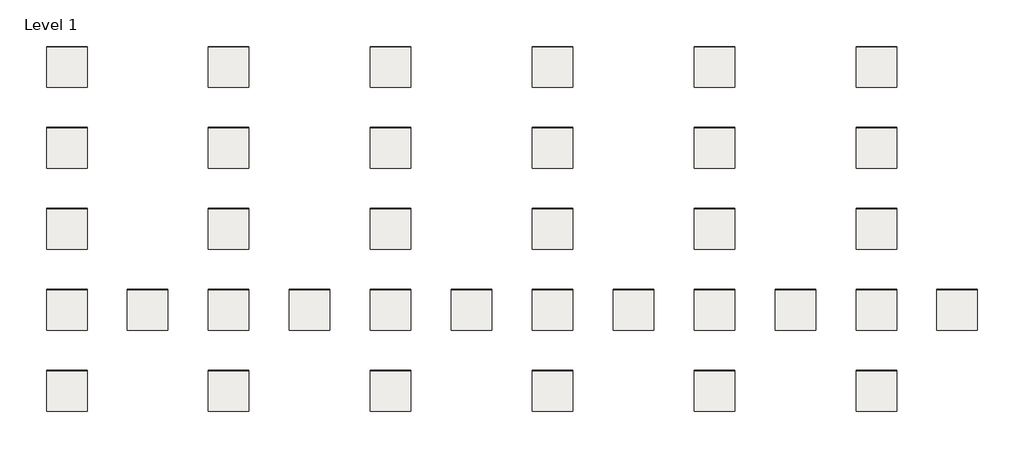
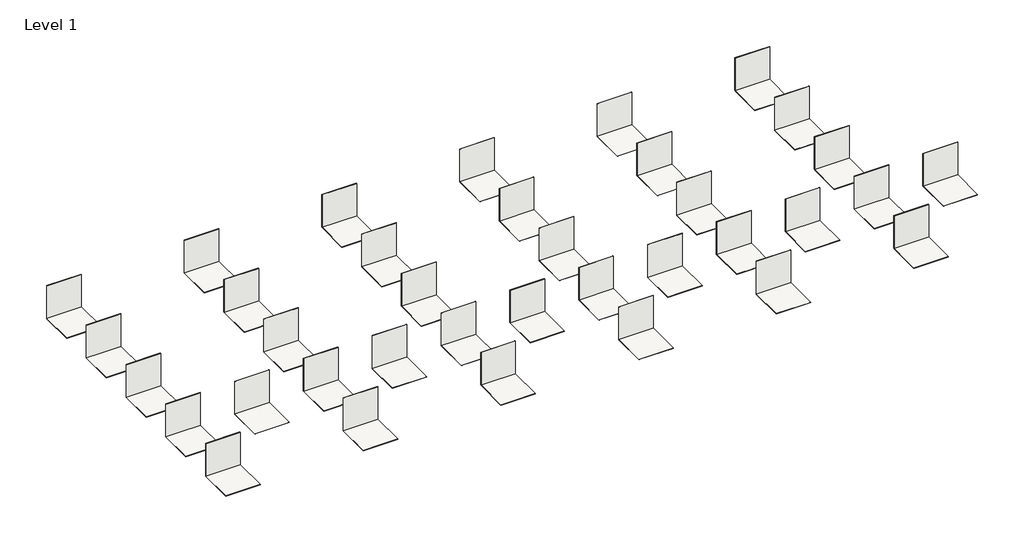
# One storey: 72 coverings.
"""IFC4 building model written with IfcOpenShell, lengths in millimetres."""

from ifc_helpers import new_model, si_unit, frame, origin, origin_with_axes, place, context, project, spatial, polyline, outline, extrude, element, save

model = new_model("IFC4")

# Units and contexts
model_context = context("Model", 3, world=origin())
ifc_project = project(units=[si_unit("LENGTHUNIT", "METRE", prefix="MILLI")], contexts=[model_context])

# Site, building, storey
site = spatial("IfcSite", under=ifc_project)
building = spatial("IfcBuilding", under=site)
storey = spatial("IfcBuildingStorey", under=building, Name="Level 1", Elevation=0.0)

# Coverings
placement = place(None, origin())
element("IfcCovering", 1, ObjectType="REVIGRÉS-NORDIK-BASE-14,65x120-MATTRECT-ALMOND", at=placement, inside=storey, context=model_context, shape_type="SweptSolid", body=[
    extrude(outline(polyline([(-4644.7065846, 7140.2812373), (-5644.7065846, 7140.2812373), (-5644.7065846, 7150.7812373), (-4644.7065846, 7150.7812373), (-4644.7065846, 7140.2812373)])), origin_with_axes(), (0.0, 0.0, 1.0), 1000.0),
])
element("IfcCovering", 2, ObjectType="REVIGRÉS-NORDIK-BASE-14,65x120-MATTRECT-ALMOND", at=placement, inside=storey, context=model_context, shape_type="SweptSolid", body=[
    extrude(outline(polyline([(-4644.7065846, 7140.2812373), (-4644.7065846, 6141.2812373), (-5644.7065846, 6141.2812373), (-5644.7065846, 7140.2812373), (-4644.7065846, 7140.2812373)])), frame((0.0, 0.0, -10.5), z_axis=(0.0, 0.0, 1.0), x_axis=(1.0, 0.0, 0.0)), (0.0, 0.0, 1.0), 10.5),
])
element("IfcCovering", 3, ObjectType="REVIGRÉS-NORDIK-BASE-29.5x120-MATTRECT-ALMOND", at=placement, inside=storey, context=model_context, shape_type="SweptSolid", body=[
    extrude(outline(polyline([(-4644.7065846, 5140.2812373), (-5644.7065846, 5140.2812373), (-5644.7065846, 5150.7812373), (-4644.7065846, 5150.7812373), (-4644.7065846, 5140.2812373)])), origin_with_axes(), (0.0, 0.0, 1.0), 1000.0),
])
element("IfcCovering", 4, ObjectType="REVIGRÉS-NORDIK-BASE-29.5x120-MATTRECT-ALMOND", at=placement, inside=storey, context=model_context, shape_type="SweptSolid", body=[
    extrude(outline(polyline([(-4644.7065846, 5140.2812373), (-4644.7065846, 4141.2812373), (-5644.7065846, 4141.2812373), (-5644.7065846, 5140.2812373), (-4644.7065846, 5140.2812373)])), frame((0.0, 0.0, -10.5), z_axis=(0.0, 0.0, 1.0), x_axis=(1.0, 0.0, 0.0)), (0.0, 0.0, 1.0), 10.5),
])
element("IfcCovering", 5, ObjectType="REVIGRÉS-NORDIK-BASE-19,6x120-MATTRECT-ALMOND", at=placement, inside=storey, context=model_context, shape_type="SweptSolid", body=[
    extrude(outline(polyline([(-4644.7065846, 1140.2812373), (-5644.7065846, 1140.2812373), (-5644.7065846, 1150.7812373), (-4644.7065846, 1150.7812373), (-4644.7065846, 1140.2812373)])), origin_with_axes(), (0.0, 0.0, 1.0), 1000.0),
])
element("IfcCovering", 6, ObjectType="REVIGRÉS-NORDIK-BASE-19,6x120-MATTRECT-ALMOND", at=placement, inside=storey, context=model_context, shape_type="SweptSolid", body=[
    extrude(outline(polyline([(-4644.7065846, 1140.2812373), (-4644.7065846, 141.2812373), (-5644.7065846, 141.2812373), (-5644.7065846, 1140.2812373), (-4644.7065846, 1140.2812373)])), frame((0.0, 0.0, -10.5), z_axis=(0.0, 0.0, 1.0), x_axis=(1.0, 0.0, 0.0)), (0.0, 0.0, 1.0), 10.5),
])
element("IfcCovering", 7, ObjectType="REVIGRÉS-NORDIK-BASE-19,6x180-MATTRECT-ALMOND", at=placement, inside=storey, context=model_context, shape_type="SweptSolid", body=[
    extrude(outline(polyline([(-4644.7065846, -860.0687627), (-5644.7065846, -860.0687627), (-5644.7065846, -848.8687627), (-4644.7065846, -848.8687627), (-4644.7065846, -860.0687627)])), origin_with_axes(), (0.0, 0.0, 1.0), 1000.0),
])
element("IfcCovering", 8, ObjectType="REVIGRÉS-NORDIK-BASE-19,6x180-MATTRECT-ALMOND", at=placement, inside=storey, context=model_context, shape_type="SweptSolid", body=[
    extrude(outline(polyline([(-4644.7065846, -860.0687627), (-4644.7065846, -1859.3687627), (-5644.7065846, -1859.3687627), (-5644.7065846, -860.0687627), (-4644.7065846, -860.0687627)])), frame((0.0, 0.0, -11.2), z_axis=(0.0, 0.0, 1.0), x_axis=(1.0, 0.0, 0.0)), (0.0, 0.0, 1.0), 11.2),
])
element("IfcCovering", 9, ObjectType="REVIGRÉS-NORDIK-BASE-29.5x180-MATTRECT-ALMOND", at=placement, inside=storey, context=model_context, shape_type="SweptSolid", body=[
    extrude(outline(polyline([(-4644.7065846, 3139.9312373), (-5644.7065846, 3139.9312373), (-5644.7065846, 3151.1312373), (-4644.7065846, 3151.1312373), (-4644.7065846, 3139.9312373)])), origin_with_axes(), (0.0, 0.0, 1.0), 1000.0),
])
element("IfcCovering", 10, ObjectType="REVIGRÉS-NORDIK-BASE-29.5x180-MATTRECT-ALMOND", at=placement, inside=storey, context=model_context, shape_type="SweptSolid", body=[
    extrude(outline(polyline([(-4644.7065846, 3139.9312373), (-4644.7065846, 2141.2812373), (-5644.7065846, 2141.2812373), (-5644.7065846, 3139.9312373), (-4644.7065846, 3139.9312373)])), frame((0.0, 0.0, -11.2), z_axis=(0.0, 0.0, 1.0), x_axis=(1.0, 0.0, 0.0)), (0.0, 0.0, 1.0), 11.2),
])
element("IfcCovering", 11, ObjectType="REVIGRÉS-NORDIK-BASE-14,65x120-MATTRECT-CHERRY", at=placement, inside=storey, context=model_context, shape_type="SweptSolid", body=[
    extrude(outline(polyline([(-644.7065846, 7140.2812373), (-1644.7065846, 7140.2812373), (-1644.7065846, 7150.7812373), (-644.7065846, 7150.7812373), (-644.7065846, 7140.2812373)])), origin_with_axes(), (0.0, 0.0, 1.0), 1000.0),
])
element("IfcCovering", 12, ObjectType="REVIGRÉS-NORDIK-BASE-14,65x120-MATTRECT-CHERRY", at=placement, inside=storey, context=model_context, shape_type="SweptSolid", body=[
    extrude(outline(polyline([(-644.7065846, 7140.2812373), (-644.7065846, 6141.2812373), (-1644.7065846, 6141.2812373), (-1644.7065846, 7140.2812373), (-644.7065846, 7140.2812373)])), frame((0.0, 0.0, -10.5), z_axis=(0.0, 0.0, 1.0), x_axis=(1.0, 0.0, 0.0)), (0.0, 0.0, 1.0), 10.5),
])
element("IfcCovering", 13, ObjectType="REVIGRÉS-NORDIK-BASE-29.5x120-MATTRECT-CHERRY", at=placement, inside=storey, context=model_context, shape_type="SweptSolid", body=[
    extrude(outline(polyline([(-644.7065846, 5140.2812373), (-1644.7065846, 5140.2812373), (-1644.7065846, 5150.7812373), (-644.7065846, 5150.7812373), (-644.7065846, 5140.2812373)])), origin_with_axes(), (0.0, 0.0, 1.0), 1000.0),
])
element("IfcCovering", 14, ObjectType="REVIGRÉS-NORDIK-BASE-29.5x120-MATTRECT-CHERRY", at=placement, inside=storey, context=model_context, shape_type="SweptSolid", body=[
    extrude(outline(polyline([(-644.7065846, 5140.2812373), (-644.7065846, 4141.2812373), (-1644.7065846, 4141.2812373), (-1644.7065846, 5140.2812373), (-644.7065846, 5140.2812373)])), frame((0.0, 0.0, -10.5), z_axis=(0.0, 0.0, 1.0), x_axis=(1.0, 0.0, 0.0)), (0.0, 0.0, 1.0), 10.5),
])
element("IfcCovering", 15, ObjectType="REVIGRÉS-NORDIK-BASE-19,6x120-MATTRECT-CHERRY", at=placement, inside=storey, context=model_context, shape_type="SweptSolid", body=[
    extrude(outline(polyline([(-644.7065846, 1140.2812373), (-1644.7065846, 1140.2812373), (-1644.7065846, 1150.7812373), (-644.7065846, 1150.7812373), (-644.7065846, 1140.2812373)])), origin_with_axes(), (0.0, 0.0, 1.0), 1000.0),
])
element("IfcCovering", 16, ObjectType="REVIGRÉS-NORDIK-BASE-19,6x120-MATTRECT-CHERRY", at=placement, inside=storey, context=model_context, shape_type="SweptSolid", body=[
    extrude(outline(polyline([(-644.7065846, 1140.2812373), (-644.7065846, 141.2812373), (-1644.7065846, 141.2812373), (-1644.7065846, 1140.2812373), (-644.7065846, 1140.2812373)])), frame((0.0, 0.0, -10.5), z_axis=(0.0, 0.0, 1.0), x_axis=(1.0, 0.0, 0.0)), (0.0, 0.0, 1.0), 10.5),
])
element("IfcCovering", 17, ObjectType="REVIGRÉS-NORDIK-BASE-19,6x180-MATTRECT-CHERRY", at=placement, inside=storey, context=model_context, shape_type="SweptSolid", body=[
    extrude(outline(polyline([(-644.7065846, -860.0687627), (-1644.7065846, -860.0687627), (-1644.7065846, -848.8687627), (-644.7065846, -848.8687627), (-644.7065846, -860.0687627)])), origin_with_axes(), (0.0, 0.0, 1.0), 1000.0),
])
element("IfcCovering", 18, ObjectType="REVIGRÉS-NORDIK-BASE-19,6x180-MATTRECT-CHERRY", at=placement, inside=storey, context=model_context, shape_type="SweptSolid", body=[
    extrude(outline(polyline([(-644.7065846, -860.0687627), (-644.7065846, -1859.3687627), (-1644.7065846, -1859.3687627), (-1644.7065846, -860.0687627), (-644.7065846, -860.0687627)])), frame((0.0, 0.0, -11.2), z_axis=(0.0, 0.0, 1.0), x_axis=(1.0, 0.0, 0.0)), (0.0, 0.0, 1.0), 11.2),
])
element("IfcCovering", 19, ObjectType="REVIGRÉS-NORDIK-BASE-29.5x180-MATTRECT-CHERRY", at=placement, inside=storey, context=model_context, shape_type="SweptSolid", body=[
    extrude(outline(polyline([(-644.7065846, 3139.9312373), (-1644.7065846, 3139.9312373), (-1644.7065846, 3151.1312373), (-644.7065846, 3151.1312373), (-644.7065846, 3139.9312373)])), origin_with_axes(), (0.0, 0.0, 1.0), 1000.0),
])
element("IfcCovering", 20, ObjectType="REVIGRÉS-NORDIK-BASE-29.5x180-MATTRECT-CHERRY", at=placement, inside=storey, context=model_context, shape_type="SweptSolid", body=[
    extrude(outline(polyline([(-644.7065846, 3139.9312373), (-644.7065846, 2141.2812373), (-1644.7065846, 2141.2812373), (-1644.7065846, 3139.9312373), (-644.7065846, 3139.9312373)])), frame((0.0, 0.0, -11.2), z_axis=(0.0, 0.0, 1.0), x_axis=(1.0, 0.0, 0.0)), (0.0, 0.0, 1.0), 11.2),
])
element("IfcCovering", 21, ObjectType="REVIGRÉS-NORDIK-BASE-14,65x120-MATTRECT-HONEY", at=placement, inside=storey, context=model_context, shape_type="SweptSolid", body=[
    extrude(outline(polyline([(3355.2934154, 7140.2812373), (2355.2934154, 7140.2812373), (2355.2934154, 7150.7812373), (3355.2934154, 7150.7812373), (3355.2934154, 7140.2812373)])), origin_with_axes(), (0.0, 0.0, 1.0), 1000.0),
])
element("IfcCovering", 22, ObjectType="REVIGRÉS-NORDIK-BASE-14,65x120-MATTRECT-HONEY", at=placement, inside=storey, context=model_context, shape_type="SweptSolid", body=[
    extrude(outline(polyline([(3355.2934154, 7140.2812373), (3355.2934154, 6141.2812373), (2355.2934154, 6141.2812373), (2355.2934154, 7140.2812373), (3355.2934154, 7140.2812373)])), frame((0.0, 0.0, -10.5), z_axis=(0.0, 0.0, 1.0), x_axis=(1.0, 0.0, 0.0)), (0.0, 0.0, 1.0), 10.5),
])
element("IfcCovering", 23, ObjectType="REVIGRÉS-NORDIK-BASE-29.5x120-MATTRECT-HONEY", at=placement, inside=storey, context=model_context, shape_type="SweptSolid", body=[
    extrude(outline(polyline([(3355.2934154, 5140.2812373), (2355.2934154, 5140.2812373), (2355.2934154, 5150.7812373), (3355.2934154, 5150.7812373), (3355.2934154, 5140.2812373)])), origin_with_axes(), (0.0, 0.0, 1.0), 1000.0),
])
element("IfcCovering", 24, ObjectType="REVIGRÉS-NORDIK-BASE-29.5x120-MATTRECT-HONEY", at=placement, inside=storey, context=model_context, shape_type="SweptSolid", body=[
    extrude(outline(polyline([(3355.2934154, 5140.2812373), (3355.2934154, 4141.2812373), (2355.2934154, 4141.2812373), (2355.2934154, 5140.2812373), (3355.2934154, 5140.2812373)])), frame((0.0, 0.0, -10.5), z_axis=(0.0, 0.0, 1.0), x_axis=(1.0, 0.0, 0.0)), (0.0, 0.0, 1.0), 10.5),
])
element("IfcCovering", 25, ObjectType="REVIGRÉS-NORDIK-BASE-19,6x120-MATTRECT-HONEY", at=placement, inside=storey, context=model_context, shape_type="SweptSolid", body=[
    extrude(outline(polyline([(3355.2934154, 1140.2812373), (2355.2934154, 1140.2812373), (2355.2934154, 1150.7812373), (3355.2934154, 1150.7812373), (3355.2934154, 1140.2812373)])), origin_with_axes(), (0.0, 0.0, 1.0), 1000.0),
])
element("IfcCovering", 26, ObjectType="REVIGRÉS-NORDIK-BASE-19,6x120-MATTRECT-HONEY", at=placement, inside=storey, context=model_context, shape_type="SweptSolid", body=[
    extrude(outline(polyline([(3355.2934154, 1140.2812373), (3355.2934154, 141.2812373), (2355.2934154, 141.2812373), (2355.2934154, 1140.2812373), (3355.2934154, 1140.2812373)])), frame((0.0, 0.0, -10.5), z_axis=(0.0, 0.0, 1.0), x_axis=(1.0, 0.0, 0.0)), (0.0, 0.0, 1.0), 10.5),
])
element("IfcCovering", 27, ObjectType="REVIGRÉS-NORDIK-BASE-19,6x180-MATTRECT-HONEY", at=placement, inside=storey, context=model_context, shape_type="SweptSolid", body=[
    extrude(outline(polyline([(3355.2934154, -860.0687627), (2355.2934154, -860.0687627), (2355.2934154, -848.8687627), (3355.2934154, -848.8687627), (3355.2934154, -860.0687627)])), origin_with_axes(), (0.0, 0.0, 1.0), 1000.0),
])
element("IfcCovering", 28, ObjectType="REVIGRÉS-NORDIK-BASE-19,6x180-MATTRECT-HONEY", at=placement, inside=storey, context=model_context, shape_type="SweptSolid", body=[
    extrude(outline(polyline([(3355.2934154, -860.0687627), (3355.2934154, -1859.3687627), (2355.2934154, -1859.3687627), (2355.2934154, -860.0687627), (3355.2934154, -860.0687627)])), frame((0.0, 0.0, -11.2), z_axis=(0.0, 0.0, 1.0), x_axis=(1.0, 0.0, 0.0)), (0.0, 0.0, 1.0), 11.2),
])
element("IfcCovering", 29, ObjectType="REVIGRÉS-NORDIK-BASE-29.5x180-MATTRECT-HONEY", at=placement, inside=storey, context=model_context, shape_type="SweptSolid", body=[
    extrude(outline(polyline([(3355.2934154, 3139.9312373), (2355.2934154, 3139.9312373), (2355.2934154, 3151.1312373), (3355.2934154, 3151.1312373), (3355.2934154, 3139.9312373)])), origin_with_axes(), (0.0, 0.0, 1.0), 1000.0),
])
element("IfcCovering", 30, ObjectType="REVIGRÉS-NORDIK-BASE-29.5x180-MATTRECT-HONEY", at=placement, inside=storey, context=model_context, shape_type="SweptSolid", body=[
    extrude(outline(polyline([(3355.2934154, 3139.9312373), (3355.2934154, 2141.2812373), (2355.2934154, 2141.2812373), (2355.2934154, 3139.9312373), (3355.2934154, 3139.9312373)])), frame((0.0, 0.0, -11.2), z_axis=(0.0, 0.0, 1.0), x_axis=(1.0, 0.0, 0.0)), (0.0, 0.0, 1.0), 11.2),
])
element("IfcCovering", 31, ObjectType="REVIGRÉS-NORDIK-BASE-14,65x120-MATTRECT-TAUPE", at=placement, inside=storey, context=model_context, shape_type="SweptSolid", body=[
    extrude(outline(polyline([(7355.2934154, 7140.2812373), (6355.2934154, 7140.2812373), (6355.2934154, 7150.7812373), (7355.2934154, 7150.7812373), (7355.2934154, 7140.2812373)])), origin_with_axes(), (0.0, 0.0, 1.0), 1000.0),
])
element("IfcCovering", 32, ObjectType="REVIGRÉS-NORDIK-BASE-14,65x120-MATTRECT-TAUPE", at=placement, inside=storey, context=model_context, shape_type="SweptSolid", body=[
    extrude(outline(polyline([(7355.2934154, 7140.2812373), (7355.2934154, 6141.2812373), (6355.2934154, 6141.2812373), (6355.2934154, 7140.2812373), (7355.2934154, 7140.2812373)])), frame((0.0, 0.0, -10.5), z_axis=(0.0, 0.0, 1.0), x_axis=(1.0, 0.0, 0.0)), (0.0, 0.0, 1.0), 10.5),
])
element("IfcCovering", 33, ObjectType="REVIGRÉS-NORDIK-BASE-29.5x120-MATTRECT-TAUPE", at=placement, inside=storey, context=model_context, shape_type="SweptSolid", body=[
    extrude(outline(polyline([(7355.2934154, 5140.2812373), (6355.2934154, 5140.2812373), (6355.2934154, 5150.7812373), (7355.2934154, 5150.7812373), (7355.2934154, 5140.2812373)])), origin_with_axes(), (0.0, 0.0, 1.0), 1000.0),
])
element("IfcCovering", 34, ObjectType="REVIGRÉS-NORDIK-BASE-29.5x120-MATTRECT-TAUPE", at=placement, inside=storey, context=model_context, shape_type="SweptSolid", body=[
    extrude(outline(polyline([(7355.2934154, 5140.2812373), (7355.2934154, 4141.2812373), (6355.2934154, 4141.2812373), (6355.2934154, 5140.2812373), (7355.2934154, 5140.2812373)])), frame((0.0, 0.0, -10.5), z_axis=(0.0, 0.0, 1.0), x_axis=(1.0, 0.0, 0.0)), (0.0, 0.0, 1.0), 10.5),
])
element("IfcCovering", 35, ObjectType="REVIGRÉS-NORDIK-BASE-19,6x120-MATTRECT-TAUPE", at=placement, inside=storey, context=model_context, shape_type="SweptSolid", body=[
    extrude(outline(polyline([(7355.2934154, 1140.2812373), (6355.2934154, 1140.2812373), (6355.2934154, 1150.7812373), (7355.2934154, 1150.7812373), (7355.2934154, 1140.2812373)])), origin_with_axes(), (0.0, 0.0, 1.0), 1000.0),
])
element("IfcCovering", 36, ObjectType="REVIGRÉS-NORDIK-BASE-19,6x120-MATTRECT-TAUPE", at=placement, inside=storey, context=model_context, shape_type="SweptSolid", body=[
    extrude(outline(polyline([(7355.2934154, 1140.2812373), (7355.2934154, 141.2812373), (6355.2934154, 141.2812373), (6355.2934154, 1140.2812373), (7355.2934154, 1140.2812373)])), frame((0.0, 0.0, -10.5), z_axis=(0.0, 0.0, 1.0), x_axis=(1.0, 0.0, 0.0)), (0.0, 0.0, 1.0), 10.5),
])
element("IfcCovering", 37, ObjectType="REVIGRÉS-NORDIK-BASE-19,6x180-MATTRECT-TAUPE", at=placement, inside=storey, context=model_context, shape_type="SweptSolid", body=[
    extrude(outline(polyline([(7355.2934154, -860.0687627), (6355.2934154, -860.0687627), (6355.2934154, -848.8687627), (7355.2934154, -848.8687627), (7355.2934154, -860.0687627)])), origin_with_axes(), (0.0, 0.0, 1.0), 1000.0),
])
element("IfcCovering", 38, ObjectType="REVIGRÉS-NORDIK-BASE-19,6x180-MATTRECT-TAUPE", at=placement, inside=storey, context=model_context, shape_type="SweptSolid", body=[
    extrude(outline(polyline([(7355.2934154, -860.0687627), (7355.2934154, -1859.3687627), (6355.2934154, -1859.3687627), (6355.2934154, -860.0687627), (7355.2934154, -860.0687627)])), frame((0.0, 0.0, -11.2), z_axis=(0.0, 0.0, 1.0), x_axis=(1.0, 0.0, 0.0)), (0.0, 0.0, 1.0), 11.2),
])
element("IfcCovering", 39, ObjectType="REVIGRÉS-NORDIK-BASE-29.5x180-MATTRECT-TAUPE", at=placement, inside=storey, context=model_context, shape_type="SweptSolid", body=[
    extrude(outline(polyline([(7355.2934154, 3139.9312373), (6355.2934154, 3139.9312373), (6355.2934154, 3151.1312373), (7355.2934154, 3151.1312373), (7355.2934154, 3139.9312373)])), origin_with_axes(), (0.0, 0.0, 1.0), 1000.0),
])
element("IfcCovering", 40, ObjectType="REVIGRÉS-NORDIK-BASE-29.5x180-MATTRECT-TAUPE", at=placement, inside=storey, context=model_context, shape_type="SweptSolid", body=[
    extrude(outline(polyline([(7355.2934154, 3139.9312373), (7355.2934154, 2141.2812373), (6355.2934154, 2141.2812373), (6355.2934154, 3139.9312373), (7355.2934154, 3139.9312373)])), frame((0.0, 0.0, -11.2), z_axis=(0.0, 0.0, 1.0), x_axis=(1.0, 0.0, 0.0)), (0.0, 0.0, 1.0), 11.2),
])
element("IfcCovering", 41, ObjectType="REVIGRÉS-NORDIK-BASE-14,65x120-MATTRECT-WALNUT", at=placement, inside=storey, context=model_context, shape_type="SweptSolid", body=[
    extrude(outline(polyline([(11355.2934154, 7140.2812373), (10355.2934154, 7140.2812373), (10355.2934154, 7150.7812373), (11355.2934154, 7150.7812373), (11355.2934154, 7140.2812373)])), origin_with_axes(), (0.0, 0.0, 1.0), 1000.0),
])
element("IfcCovering", 42, ObjectType="REVIGRÉS-NORDIK-BASE-14,65x120-MATTRECT-WALNUT", at=placement, inside=storey, context=model_context, shape_type="SweptSolid", body=[
    extrude(outline(polyline([(11355.2934154, 7140.2812373), (11355.2934154, 6141.2812373), (10355.2934154, 6141.2812373), (10355.2934154, 7140.2812373), (11355.2934154, 7140.2812373)])), frame((0.0, 0.0, -10.5), z_axis=(0.0, 0.0, 1.0), x_axis=(1.0, 0.0, 0.0)), (0.0, 0.0, 1.0), 10.5),
])
element("IfcCovering", 43, ObjectType="REVIGRÉS-NORDIK-BASE-29.5x120-MATTRECT-WALNUT", at=placement, inside=storey, context=model_context, shape_type="SweptSolid", body=[
    extrude(outline(polyline([(11355.2934154, 5140.2812373), (10355.2934154, 5140.2812373), (10355.2934154, 5150.7812373), (11355.2934154, 5150.7812373), (11355.2934154, 5140.2812373)])), origin_with_axes(), (0.0, 0.0, 1.0), 1000.0),
])
element("IfcCovering", 44, ObjectType="REVIGRÉS-NORDIK-BASE-29.5x120-MATTRECT-WALNUT", at=placement, inside=storey, context=model_context, shape_type="SweptSolid", body=[
    extrude(outline(polyline([(11355.2934154, 5140.2812373), (11355.2934154, 4141.2812373), (10355.2934154, 4141.2812373), (10355.2934154, 5140.2812373), (11355.2934154, 5140.2812373)])), frame((0.0, 0.0, -10.5), z_axis=(0.0, 0.0, 1.0), x_axis=(1.0, 0.0, 0.0)), (0.0, 0.0, 1.0), 10.5),
])
element("IfcCovering", 45, ObjectType="REVIGRÉS-NORDIK-BASE-19,6x120-MATTRECT-WALNUT", at=placement, inside=storey, context=model_context, shape_type="SweptSolid", body=[
    extrude(outline(polyline([(11355.2934154, 1140.2812373), (10355.2934154, 1140.2812373), (10355.2934154, 1150.7812373), (11355.2934154, 1150.7812373), (11355.2934154, 1140.2812373)])), origin_with_axes(), (0.0, 0.0, 1.0), 1000.0),
])
element("IfcCovering", 46, ObjectType="REVIGRÉS-NORDIK-BASE-19,6x120-MATTRECT-WALNUT", at=placement, inside=storey, context=model_context, shape_type="SweptSolid", body=[
    extrude(outline(polyline([(11355.2934154, 1140.2812373), (11355.2934154, 141.2812373), (10355.2934154, 141.2812373), (10355.2934154, 1140.2812373), (11355.2934154, 1140.2812373)])), frame((0.0, 0.0, -10.5), z_axis=(0.0, 0.0, 1.0), x_axis=(1.0, 0.0, 0.0)), (0.0, 0.0, 1.0), 10.5),
])
element("IfcCovering", 47, ObjectType="REVIGRÉS-NORDIK-BASE-19,6x180-MATTRECT-WALNUT", at=placement, inside=storey, context=model_context, shape_type="SweptSolid", body=[
    extrude(outline(polyline([(11355.2934154, -860.0687627), (10355.2934154, -860.0687627), (10355.2934154, -848.8687627), (11355.2934154, -848.8687627), (11355.2934154, -860.0687627)])), origin_with_axes(), (0.0, 0.0, 1.0), 1000.0),
])
element("IfcCovering", 48, ObjectType="REVIGRÉS-NORDIK-BASE-19,6x180-MATTRECT-WALNUT", at=placement, inside=storey, context=model_context, shape_type="SweptSolid", body=[
    extrude(outline(polyline([(11355.2934154, -860.0687627), (11355.2934154, -1859.3687627), (10355.2934154, -1859.3687627), (10355.2934154, -860.0687627), (11355.2934154, -860.0687627)])), frame((0.0, 0.0, -11.2), z_axis=(0.0, 0.0, 1.0), x_axis=(1.0, 0.0, 0.0)), (0.0, 0.0, 1.0), 11.2),
])
element("IfcCovering", 49, ObjectType="REVIGRÉS-NORDIK-BASE-29.5x180-MATTRECT-WALNUT", at=placement, inside=storey, context=model_context, shape_type="SweptSolid", body=[
    extrude(outline(polyline([(11355.2934154, 3139.9312373), (10355.2934154, 3139.9312373), (10355.2934154, 3151.1312373), (11355.2934154, 3151.1312373), (11355.2934154, 3139.9312373)])), origin_with_axes(), (0.0, 0.0, 1.0), 1000.0),
])
element("IfcCovering", 50, ObjectType="REVIGRÉS-NORDIK-BASE-29.5x180-MATTRECT-WALNUT", at=placement, inside=storey, context=model_context, shape_type="SweptSolid", body=[
    extrude(outline(polyline([(11355.2934154, 3139.9312373), (11355.2934154, 2141.2812373), (10355.2934154, 2141.2812373), (10355.2934154, 3139.9312373), (11355.2934154, 3139.9312373)])), frame((0.0, 0.0, -11.2), z_axis=(0.0, 0.0, 1.0), x_axis=(1.0, 0.0, 0.0)), (0.0, 0.0, 1.0), 11.2),
])
element("IfcCovering", 51, ObjectType="REVIGRÉS-NORDIK-BASE-14,65x120-MATTRECT-WHITE", at=placement, inside=storey, context=model_context, shape_type="SweptSolid", body=[
    extrude(outline(polyline([(15355.2934154, 7140.2812373), (14355.2934154, 7140.2812373), (14355.2934154, 7150.7812373), (15355.2934154, 7150.7812373), (15355.2934154, 7140.2812373)])), origin_with_axes(), (0.0, 0.0, 1.0), 1000.0),
])
element("IfcCovering", 52, ObjectType="REVIGRÉS-NORDIK-BASE-14,65x120-MATTRECT-WHITE", at=placement, inside=storey, context=model_context, shape_type="SweptSolid", body=[
    extrude(outline(polyline([(15355.2934154, 7140.2812373), (15355.2934154, 6141.2812373), (14355.2934154, 6141.2812373), (14355.2934154, 7140.2812373), (15355.2934154, 7140.2812373)])), frame((0.0, 0.0, -10.5), z_axis=(0.0, 0.0, 1.0), x_axis=(1.0, 0.0, 0.0)), (0.0, 0.0, 1.0), 10.5),
])
element("IfcCovering", 53, ObjectType="REVIGRÉS-NORDIK-BASE-29.5x120-MATTRECT-WHITE", at=placement, inside=storey, context=model_context, shape_type="SweptSolid", body=[
    extrude(outline(polyline([(15355.2934154, 5140.2812373), (14355.2934154, 5140.2812373), (14355.2934154, 5150.7812373), (15355.2934154, 5150.7812373), (15355.2934154, 5140.2812373)])), origin_with_axes(), (0.0, 0.0, 1.0), 1000.0),
])
element("IfcCovering", 54, ObjectType="REVIGRÉS-NORDIK-BASE-29.5x120-MATTRECT-WHITE", at=placement, inside=storey, context=model_context, shape_type="SweptSolid", body=[
    extrude(outline(polyline([(15355.2934154, 5140.2812373), (15355.2934154, 4141.2812373), (14355.2934154, 4141.2812373), (14355.2934154, 5140.2812373), (15355.2934154, 5140.2812373)])), frame((0.0, 0.0, -10.5), z_axis=(0.0, 0.0, 1.0), x_axis=(1.0, 0.0, 0.0)), (0.0, 0.0, 1.0), 10.5),
])
element("IfcCovering", 55, ObjectType="REVIGRÉS-NORDIK-BASE-19,6x120-MATTRECT-WHITE", at=placement, inside=storey, context=model_context, shape_type="SweptSolid", body=[
    extrude(outline(polyline([(15355.2934154, 1140.2812373), (14355.2934154, 1140.2812373), (14355.2934154, 1150.7812373), (15355.2934154, 1150.7812373), (15355.2934154, 1140.2812373)])), origin_with_axes(), (0.0, 0.0, 1.0), 1000.0),
])
element("IfcCovering", 56, ObjectType="REVIGRÉS-NORDIK-BASE-19,6x120-MATTRECT-WHITE", at=placement, inside=storey, context=model_context, shape_type="SweptSolid", body=[
    extrude(outline(polyline([(15355.2934154, 1140.2812373), (15355.2934154, 141.2812373), (14355.2934154, 141.2812373), (14355.2934154, 1140.2812373), (15355.2934154, 1140.2812373)])), frame((0.0, 0.0, -10.5), z_axis=(0.0, 0.0, 1.0), x_axis=(1.0, 0.0, 0.0)), (0.0, 0.0, 1.0), 10.5),
])
element("IfcCovering", 57, ObjectType="REVIGRÉS-NORDIK-BASE-19,6x180-MATTRECT-WHITE", at=placement, inside=storey, context=model_context, shape_type="SweptSolid", body=[
    extrude(outline(polyline([(15355.2934154, -860.0687627), (14355.2934154, -860.0687627), (14355.2934154, -848.8687627), (15355.2934154, -848.8687627), (15355.2934154, -860.0687627)])), origin_with_axes(), (0.0, 0.0, 1.0), 1000.0),
])
element("IfcCovering", 58, ObjectType="REVIGRÉS-NORDIK-BASE-19,6x180-MATTRECT-WHITE", at=placement, inside=storey, context=model_context, shape_type="SweptSolid", body=[
    extrude(outline(polyline([(15355.2934154, -860.0687627), (15355.2934154, -1859.3687627), (14355.2934154, -1859.3687627), (14355.2934154, -860.0687627), (15355.2934154, -860.0687627)])), frame((0.0, 0.0, -11.2), z_axis=(0.0, 0.0, 1.0), x_axis=(1.0, 0.0, 0.0)), (0.0, 0.0, 1.0), 11.2),
])
element("IfcCovering", 59, ObjectType="REVIGRÉS-NORDIK-BASE-29.5x180-MATTRECT-WHITE", at=placement, inside=storey, context=model_context, shape_type="SweptSolid", body=[
    extrude(outline(polyline([(15355.2934154, 3139.9312373), (14355.2934154, 3139.9312373), (14355.2934154, 3151.1312373), (15355.2934154, 3151.1312373), (15355.2934154, 3139.9312373)])), origin_with_axes(), (0.0, 0.0, 1.0), 1000.0),
])
element("IfcCovering", 60, ObjectType="REVIGRÉS-NORDIK-BASE-29.5x180-MATTRECT-WHITE", at=placement, inside=storey, context=model_context, shape_type="SweptSolid", body=[
    extrude(outline(polyline([(15355.2934154, 3139.9312373), (15355.2934154, 2141.2812373), (14355.2934154, 2141.2812373), (14355.2934154, 3139.9312373), (15355.2934154, 3139.9312373)])), frame((0.0, 0.0, -11.2), z_axis=(0.0, 0.0, 1.0), x_axis=(1.0, 0.0, 0.0)), (0.0, 0.0, 1.0), 11.2),
])
element("IfcCovering", 61, ObjectType="REVIGRÉS-NORDIK-BASE-19,6x120-ANTISLIP RECT-ALMOND", at=placement, inside=storey, context=model_context, shape_type="SweptSolid", body=[
    extrude(outline(polyline([(-2644.7065846, 1140.2812373), (-3644.7065846, 1140.2812373), (-3644.7065846, 1150.7812373), (-2644.7065846, 1150.7812373), (-2644.7065846, 1140.2812373)])), origin_with_axes(), (0.0, 0.0, 1.0), 1000.0),
])
element("IfcCovering", 62, ObjectType="REVIGRÉS-NORDIK-BASE-19,6x120-ANTISLIP RECT-ALMOND", at=placement, inside=storey, context=model_context, shape_type="SweptSolid", body=[
    extrude(outline(polyline([(-2644.7065846, 1140.2812373), (-2644.7065846, 141.2812373), (-3644.7065846, 141.2812373), (-3644.7065846, 1140.2812373), (-2644.7065846, 1140.2812373)])), frame((0.0, 0.0, -10.5), z_axis=(0.0, 0.0, 1.0), x_axis=(1.0, 0.0, 0.0)), (0.0, 0.0, 1.0), 10.5),
])
element("IfcCovering", 63, ObjectType="REVIGRÉS-NORDIK-BASE-19,6x120-ANTISLIP RECT-CHERRY", at=placement, inside=storey, context=model_context, shape_type="SweptSolid", body=[
    extrude(outline(polyline([(1355.2934154, 1140.2812373), (355.2934154, 1140.2812373), (355.2934154, 1150.7812373), (1355.2934154, 1150.7812373), (1355.2934154, 1140.2812373)])), origin_with_axes(), (0.0, 0.0, 1.0), 1000.0),
])
element("IfcCovering", 64, ObjectType="REVIGRÉS-NORDIK-BASE-19,6x120-ANTISLIP RECT-CHERRY", at=placement, inside=storey, context=model_context, shape_type="SweptSolid", body=[
    extrude(outline(polyline([(1355.2934154, 1140.2812373), (1355.2934154, 141.2812373), (355.2934154, 141.2812373), (355.2934154, 1140.2812373), (1355.2934154, 1140.2812373)])), frame((0.0, 0.0, -10.5), z_axis=(0.0, 0.0, 1.0), x_axis=(1.0, 0.0, 0.0)), (0.0, 0.0, 1.0), 10.5),
])
element("IfcCovering", 65, ObjectType="REVIGRÉS-NORDIK-BASE-19,6x120-ANTISLIP RECT-HONEY", at=placement, inside=storey, context=model_context, shape_type="SweptSolid", body=[
    extrude(outline(polyline([(5355.2934154, 1140.2812373), (4355.2934154, 1140.2812373), (4355.2934154, 1150.7812373), (5355.2934154, 1150.7812373), (5355.2934154, 1140.2812373)])), origin_with_axes(), (0.0, 0.0, 1.0), 1000.0),
])
element("IfcCovering", 66, ObjectType="REVIGRÉS-NORDIK-BASE-19,6x120-ANTISLIP RECT-HONEY", at=placement, inside=storey, context=model_context, shape_type="SweptSolid", body=[
    extrude(outline(polyline([(5355.2934154, 1140.2812373), (5355.2934154, 141.2812373), (4355.2934154, 141.2812373), (4355.2934154, 1140.2812373), (5355.2934154, 1140.2812373)])), frame((0.0, 0.0, -10.5), z_axis=(0.0, 0.0, 1.0), x_axis=(1.0, 0.0, 0.0)), (0.0, 0.0, 1.0), 10.5),
])
element("IfcCovering", 67, ObjectType="REVIGRÉS-NORDIK-BASE-19,6x120-ANTISLIP RECT-TAUPE", at=placement, inside=storey, context=model_context, shape_type="SweptSolid", body=[
    extrude(outline(polyline([(9355.2934154, 1140.2812373), (8355.2934154, 1140.2812373), (8355.2934154, 1150.7812373), (9355.2934154, 1150.7812373), (9355.2934154, 1140.2812373)])), origin_with_axes(), (0.0, 0.0, 1.0), 1000.0),
])
element("IfcCovering", 68, ObjectType="REVIGRÉS-NORDIK-BASE-19,6x120-ANTISLIP RECT-TAUPE", at=placement, inside=storey, context=model_context, shape_type="SweptSolid", body=[
    extrude(outline(polyline([(9355.2934154, 1140.2812373), (9355.2934154, 141.2812373), (8355.2934154, 141.2812373), (8355.2934154, 1140.2812373), (9355.2934154, 1140.2812373)])), frame((0.0, 0.0, -10.5), z_axis=(0.0, 0.0, 1.0), x_axis=(1.0, 0.0, 0.0)), (0.0, 0.0, 1.0), 10.5),
])
element("IfcCovering", 69, ObjectType="REVIGRÉS-NORDIK-BASE-19,6x120-ANTISLIP RECT-WALNUT", at=placement, inside=storey, context=model_context, shape_type="SweptSolid", body=[
    extrude(outline(polyline([(13355.2934154, 1140.2812373), (12355.2934154, 1140.2812373), (12355.2934154, 1150.7812373), (13355.2934154, 1150.7812373), (13355.2934154, 1140.2812373)])), origin_with_axes(), (0.0, 0.0, 1.0), 1000.0),
])
element("IfcCovering", 70, ObjectType="REVIGRÉS-NORDIK-BASE-19,6x120-ANTISLIP RECT-WALNUT", at=placement, inside=storey, context=model_context, shape_type="SweptSolid", body=[
    extrude(outline(polyline([(13355.2934154, 1140.2812373), (13355.2934154, 141.2812373), (12355.2934154, 141.2812373), (12355.2934154, 1140.2812373), (13355.2934154, 1140.2812373)])), frame((0.0, 0.0, -10.5), z_axis=(0.0, 0.0, 1.0), x_axis=(1.0, 0.0, 0.0)), (0.0, 0.0, 1.0), 10.5),
])
element("IfcCovering", 71, ObjectType="REVIGRÉS-NORDIK-BASE-19,6x120-ANTISLIP RECT-WHITE", at=placement, inside=storey, context=model_context, shape_type="SweptSolid", body=[
    extrude(outline(polyline([(17355.2934154, 1140.2812373), (16355.2934154, 1140.2812373), (16355.2934154, 1150.7812373), (17355.2934154, 1150.7812373), (17355.2934154, 1140.2812373)])), origin_with_axes(), (0.0, 0.0, 1.0), 1000.0),
])
element("IfcCovering", 72, ObjectType="REVIGRÉS-NORDIK-BASE-19,6x120-ANTISLIP RECT-WHITE", at=placement, inside=storey, context=model_context, shape_type="SweptSolid", body=[
    extrude(outline(polyline([(17355.2934154, 1140.2812373), (17355.2934154, 141.2812373), (16355.2934154, 141.2812373), (16355.2934154, 1140.2812373), (17355.2934154, 1140.2812373)])), frame((0.0, 0.0, -10.5), z_axis=(0.0, 0.0, 1.0), x_axis=(1.0, 0.0, 0.0)), (0.0, 0.0, 1.0), 10.5),
])

save(model, "model.ifc")
